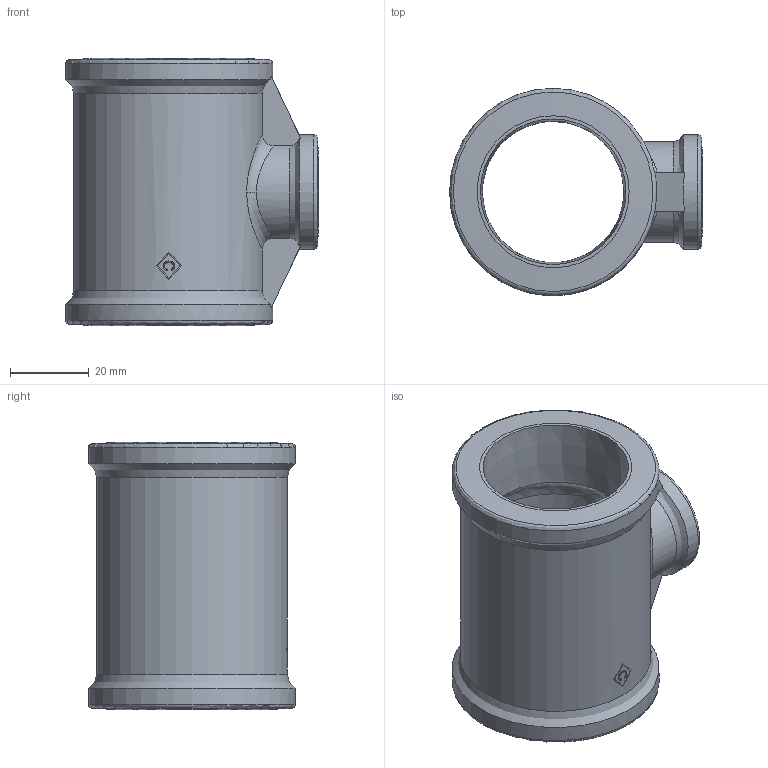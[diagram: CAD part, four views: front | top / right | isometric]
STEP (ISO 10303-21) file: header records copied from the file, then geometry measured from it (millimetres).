
FILE_DESCRIPTION((''),'2;1');
FILE_NAME('P:\Fastrack\53909_CRANE\Crane\Fig.161 Tee\New 1.25 inch\161-1.25x0.50.stp','2009-09-16T12:13:09',('btaylor'),(''),'Autodesk Inventor 2008','Autodesk Inventor 2008','');
FILE_SCHEMA(('AUTOMOTIVE_DESIGN { 1 0 10303 214 1 1 1 1 }'));
Length unit declared in the file: millimetre
Products named in the file (1): 161-1.25x0.50
Bounding box: 64.35 x 52.7 x 68 mm (x, y, z)
Volume: 54740.8 mm3; surface area: 23294.5 mm2
Topology: 1 solids, 1 shells, 64 faces, 182 edges, 122 vertices
Faces by surface type: bspline 24, plane 19, cylinder 12, cone 6, torus 3
Full cylindrical faces by diameter (mm): 29.2 x1, 52.7 x2
Entity records: 4729 total; most frequent: CARTESIAN_POINT 3195, ORIENTED_EDGE 332, DIRECTION 272, EDGE_CURVE 166, VERTEX_POINT 118, AXIS2_PLACEMENT_3D 117, EDGE_LOOP 82, FACE_OUTER_BOUND 64
